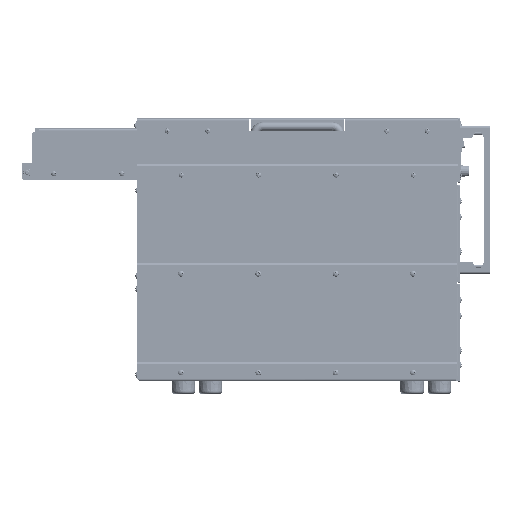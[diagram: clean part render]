
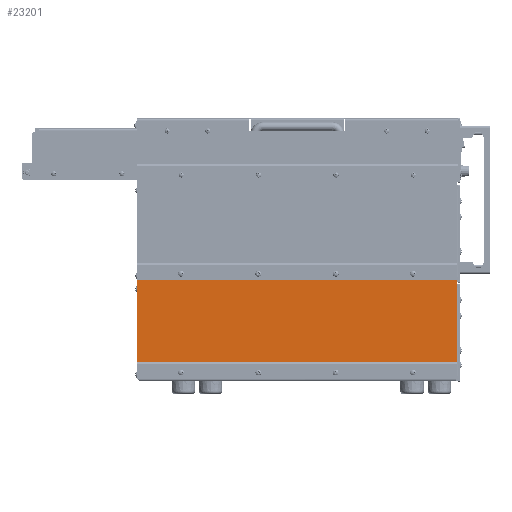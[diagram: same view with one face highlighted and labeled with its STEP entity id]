
A CAD part, left-side view. The second image highlights one B-rep face of the part: STEP entity #23201.
In plain terms, the highlighted planar face has unit normal (-1, 0, 0).
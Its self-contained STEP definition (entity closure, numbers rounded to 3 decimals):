
#23201=ADVANCED_FACE('',(#63660,#63661,#63662,#63663,#63664),#63665,.T.);
#63660=FACE_OUTER_BOUND('',#125077,.T.);
#63661=FACE_BOUND('',#125078,.T.);
#63662=FACE_BOUND('',#125079,.T.);
#63663=FACE_BOUND('',#125080,.T.);
#63664=FACE_BOUND('',#125081,.T.);
#63665=PLANE('',#125082);
#125077=EDGE_LOOP('',(#194192,#194193,#194194,#194195,#194196,#194197,#194198,#194199));
#125078=EDGE_LOOP('',(#194200,#194201));
#125079=EDGE_LOOP('',(#194202,#194203));
#125080=EDGE_LOOP('',(#194204,#194205));
#125081=EDGE_LOOP('',(#194206,#194207));
#125082=AXIS2_PLACEMENT_3D('',#194208,#194209,#194210);
#194192=ORIENTED_EDGE('',*,*,#341722,.F.);
#194193=ORIENTED_EDGE('',*,*,#341730,.T.);
#194194=ORIENTED_EDGE('',*,*,#341741,.F.);
#194195=ORIENTED_EDGE('',*,*,#341717,.F.);
#194196=ORIENTED_EDGE('',*,*,#341765,.T.);
#194197=ORIENTED_EDGE('',*,*,#341783,.F.);
#194198=ORIENTED_EDGE('',*,*,#341784,.F.);
#194199=ORIENTED_EDGE('',*,*,#341724,.F.);
#194200=ORIENTED_EDGE('',*,*,#341700,.T.);
#194201=ORIENTED_EDGE('',*,*,#341767,.T.);
#194202=ORIENTED_EDGE('',*,*,#341695,.T.);
#194203=ORIENTED_EDGE('',*,*,#341769,.T.);
#194204=ORIENTED_EDGE('',*,*,#341690,.T.);
#194205=ORIENTED_EDGE('',*,*,#341771,.T.);
#194206=ORIENTED_EDGE('',*,*,#341685,.T.);
#194207=ORIENTED_EDGE('',*,*,#341773,.T.);
#194208=CARTESIAN_POINT('',(546.234,604.229,-109.302));
#194209=DIRECTION('',(-1.0,0.,0.));
#194210=DIRECTION('',(0.,0.,1.0));
#341685=EDGE_CURVE('',#406631,#406628,#406632,.T.);
#341690=EDGE_CURVE('',#406640,#406637,#406641,.T.);
#341695=EDGE_CURVE('',#406649,#406646,#406650,.T.);
#341700=EDGE_CURVE('',#406658,#406655,#406659,.T.);
#341717=EDGE_CURVE('',#406687,#406683,#406689,.T.);
#341722=EDGE_CURVE('',#406696,#406692,#406698,.T.);
#341724=EDGE_CURVE('',#406692,#406700,#406701,.T.);
#341730=EDGE_CURVE('',#406696,#406708,#406710,.T.);
#341741=EDGE_CURVE('',#406683,#406708,#406723,.T.);
#341765=EDGE_CURVE('',#406687,#406753,#406755,.T.);
#341767=EDGE_CURVE('',#406655,#406658,#406757,.T.);
#341769=EDGE_CURVE('',#406646,#406649,#406759,.T.);
#341771=EDGE_CURVE('',#406637,#406640,#406761,.T.);
#341773=EDGE_CURVE('',#406628,#406631,#406763,.T.);
#341783=EDGE_CURVE('',#406773,#406753,#406774,.T.);
#341784=EDGE_CURVE('',#406700,#406773,#406775,.T.);
#406628=VERTEX_POINT('',#502276);
#406631=VERTEX_POINT('',#502280);
#406632=CIRCLE('',#502281,2.5);
#406637=VERTEX_POINT('',#502287);
#406640=VERTEX_POINT('',#502291);
#406641=CIRCLE('',#502292,2.5);
#406646=VERTEX_POINT('',#502298);
#406649=VERTEX_POINT('',#502302);
#406650=CIRCLE('',#502303,2.5);
#406655=VERTEX_POINT('',#502309);
#406658=VERTEX_POINT('',#502313);
#406659=CIRCLE('',#502314,2.5);
#406683=VERTEX_POINT('',#502343);
#406687=VERTEX_POINT('',#502348);
#406689=CIRCLE('',#502351,1.457);
#406692=VERTEX_POINT('',#502354);
#406696=VERTEX_POINT('',#502359);
#406698=CIRCLE('',#502362,2.538);
#406700=VERTEX_POINT('',#502364);
#406701=CIRCLE('',#502365,2.538);
#406708=VERTEX_POINT('',#502374);
#406710=LINE('',#502377,#502378);
#406723=CIRCLE('',#502394,1.457);
#406753=VERTEX_POINT('',#502433);
#406755=LINE('',#502436,#502437);
#406757=CIRCLE('',#502439,2.5);
#406759=CIRCLE('',#502441,2.5);
#406761=CIRCLE('',#502443,2.5);
#406763=CIRCLE('',#502445,2.5);
#406773=VERTEX_POINT('',#502455);
#406774=LINE('',#502456,#502457);
#406775=LINE('',#502458,#502459);
#502276=CARTESIAN_POINT('',(546.234,974.979,-53.877));
#502280=CARTESIAN_POINT('',(546.234,979.979,-53.877));
#502281=AXIS2_PLACEMENT_3D('',#623751,#623752,#623753);
#502287=CARTESIAN_POINT('',(546.234,870.559,-53.877));
#502291=CARTESIAN_POINT('',(546.234,875.559,-53.877));
#502292=AXIS2_PLACEMENT_3D('',#623759,#623760,#623761);
#502298=CARTESIAN_POINT('',(546.234,766.149,-53.877));
#502302=CARTESIAN_POINT('',(546.234,771.149,-53.877));
#502303=AXIS2_PLACEMENT_3D('',#623767,#623768,#623769);
#502309=CARTESIAN_POINT('',(546.234,661.729,-53.877));
#502313=CARTESIAN_POINT('',(546.234,666.729,-53.877));
#502314=AXIS2_PLACEMENT_3D('',#623775,#623776,#623777);
#502343=CARTESIAN_POINT('',(546.234,1037.053,-46.054));
#502348=CARTESIAN_POINT('',(546.234,1037.479,-47.084));
#502351=AXIS2_PLACEMENT_3D('',#623803,#623804,#623805);
#502354=CARTESIAN_POINT('',(546.234,604.973,-46.371));
#502359=CARTESIAN_POINT('',(546.234,606.767,-45.627));
#502362=AXIS2_PLACEMENT_3D('',#623811,#623812,#623813);
#502364=CARTESIAN_POINT('',(546.234,604.229,-48.165));
#502365=AXIS2_PLACEMENT_3D('',#623814,#623815,#623816);
#502374=CARTESIAN_POINT('',(546.234,1036.023,-45.627));
#502377=CARTESIAN_POINT('',(546.234,604.229,-45.627));
#502378=VECTOR('',#623823,1.0);
#502394=AXIS2_PLACEMENT_3D('',#623842,#623843,#623844);
#502433=CARTESIAN_POINT('',(546.234,1037.479,-172.977));
#502436=CARTESIAN_POINT('',(546.234,1037.479,-45.627));
#502437=VECTOR('',#623879,1.0);
#502439=AXIS2_PLACEMENT_3D('',#623880,#623881,#623882);
#502441=AXIS2_PLACEMENT_3D('',#623883,#623884,#623885);
#502443=AXIS2_PLACEMENT_3D('',#623886,#623887,#623888);
#502445=AXIS2_PLACEMENT_3D('',#623889,#623890,#623891);
#502455=CARTESIAN_POINT('',(546.234,604.229,-172.977));
#502456=CARTESIAN_POINT('',(546.234,604.229,-172.977));
#502457=VECTOR('',#623904,1.0);
#502458=CARTESIAN_POINT('',(546.234,604.229,-45.627));
#502459=VECTOR('',#623905,1.0);
#623751=CARTESIAN_POINT('',(546.234,977.479,-53.877));
#623752=DIRECTION('',(1.0,0.,0.));
#623753=DIRECTION('',(0.,-1.0,0.));
#623759=CARTESIAN_POINT('',(546.234,873.059,-53.877));
#623760=DIRECTION('',(1.0,0.,0.));
#623761=DIRECTION('',(0.,-1.0,0.));
#623767=CARTESIAN_POINT('',(546.234,768.649,-53.877));
#623768=DIRECTION('',(1.0,0.,0.));
#623769=DIRECTION('',(0.,-1.0,0.));
#623775=CARTESIAN_POINT('',(546.234,664.229,-53.877));
#623776=DIRECTION('',(1.0,0.,0.));
#623777=DIRECTION('',(0.,-1.0,0.));
#623803=CARTESIAN_POINT('',(546.234,1036.023,-47.084));
#623804=DIRECTION('',(1.0,0.,0.));
#623805=DIRECTION('',(0.,0.707,0.707));
#623811=CARTESIAN_POINT('',(546.234,606.767,-48.165));
#623812=DIRECTION('',(1.0,0.,0.));
#623813=DIRECTION('',(0.,-0.707,0.707));
#623814=CARTESIAN_POINT('',(546.234,606.767,-48.165));
#623815=DIRECTION('',(1.0,0.,0.));
#623816=DIRECTION('',(0.,-0.707,0.707));
#623823=DIRECTION('',(0.0,1.0,0.0));
#623842=CARTESIAN_POINT('',(546.234,1036.023,-47.084));
#623843=DIRECTION('',(1.0,0.,0.));
#623844=DIRECTION('',(0.,0.707,0.707));
#623879=DIRECTION('',(0.0,0.0,-1.0));
#623880=CARTESIAN_POINT('',(546.234,664.229,-53.877));
#623881=DIRECTION('',(1.0,0.,0.));
#623882=DIRECTION('',(0.,-1.0,0.));
#623883=CARTESIAN_POINT('',(546.234,768.649,-53.877));
#623884=DIRECTION('',(1.0,0.,0.));
#623885=DIRECTION('',(0.,-1.0,0.));
#623886=CARTESIAN_POINT('',(546.234,873.059,-53.877));
#623887=DIRECTION('',(1.0,0.,0.));
#623888=DIRECTION('',(0.,-1.0,0.));
#623889=CARTESIAN_POINT('',(546.234,977.479,-53.877));
#623890=DIRECTION('',(1.0,0.,0.));
#623891=DIRECTION('',(0.,-1.0,0.));
#623904=DIRECTION('',(0.0,1.0,0.0));
#623905=DIRECTION('',(0.0,0.0,-1.0));
